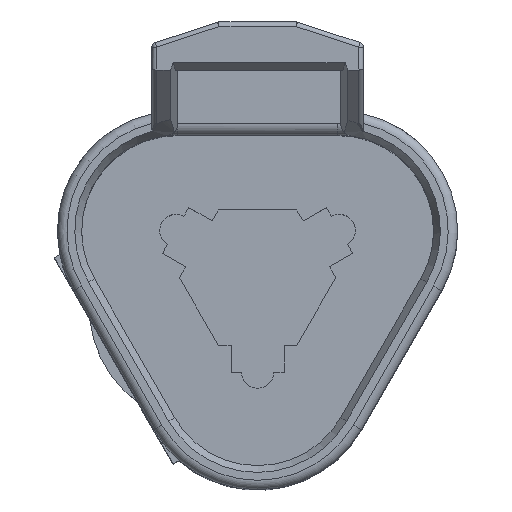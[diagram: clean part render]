
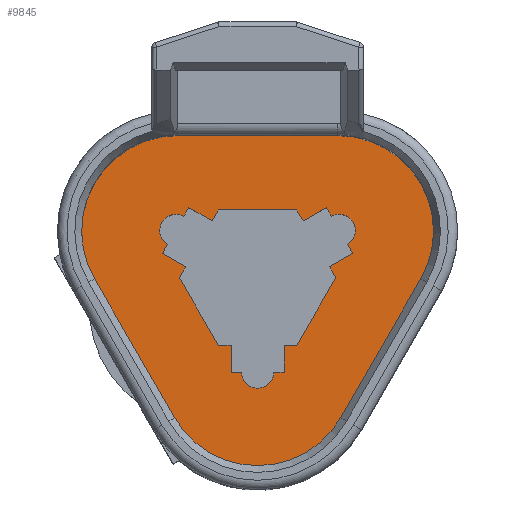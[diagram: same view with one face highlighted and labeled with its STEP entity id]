
A CAD part, top view. The second image highlights one B-rep face of the part: STEP entity #9845.
In plain terms, the highlighted planar face has unit normal (0, 0, 1).
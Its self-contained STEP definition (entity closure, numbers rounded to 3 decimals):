
#888=CARTESIAN_POINT('',(-4.234,3.669,-19.558));
#889=DIRECTION('',(0.,0.,1.));
#890=DIRECTION('',(0.,1.,0.));
#891=AXIS2_PLACEMENT_3D('',#888,#889,#890);
#896=DIRECTION('',(-1.,0.,0.));
#897=VECTOR('',#896,8.468);
#898=CARTESIAN_POINT('',(4.234,8.736,-19.558));
#899=LINE('',#898,#897);
#903=CARTESIAN_POINT('',(4.234,3.669,-19.558));
#904=DIRECTION('',(0.,0.,1.));
#905=DIRECTION('',(0.866,-0.5,0.));
#906=AXIS2_PLACEMENT_3D('',#903,#904,#905);
#911=DIRECTION('',(0.5,0.866,0.));
#912=VECTOR('',#911,8.474);
#913=CARTESIAN_POINT('',(4.389,-6.203,-19.558));
#914=LINE('',#913,#912);
#918=CARTESIAN_POINT('',(0.,-3.671,-19.558));
#919=DIRECTION('',(0.,0.,1.));
#920=DIRECTION('',(-0.866,-0.5,0.));
#921=AXIS2_PLACEMENT_3D('',#918,#919,#920);
#926=DIRECTION('',(0.5,-0.866,0.));
#927=VECTOR('',#926,8.474);
#928=CARTESIAN_POINT('',(-8.623,1.138,-19.558));
#929=LINE('',#928,#927);
#933=DIRECTION('',(-0.5,-0.866,0.));
#934=VECTOR('',#933,0.671);
#935=CARTESIAN_POINT('',(-2.068,4.805,-19.558));
#936=LINE('',#935,#934);
#940=DIRECTION('',(-0.866,0.5,0.));
#941=VECTOR('',#940,1.422);
#942=CARTESIAN_POINT('',(-2.403,4.224,-19.558));
#943=LINE('',#942,#941);
#947=DIRECTION('',(-0.5,-0.866,0.));
#948=VECTOR('',#947,0.533);
#949=CARTESIAN_POINT('',(-3.634,4.935,-19.558));
#950=LINE('',#949,#948);
#954=CARTESIAN_POINT('',(-4.308,3.711,-19.558));
#955=DIRECTION('',(0.,0.,1.));
#956=DIRECTION('',(0.471,0.882,0.));
#957=AXIS2_PLACEMENT_3D('',#954,#955,#956);
#962=DIRECTION('',(-0.5,-0.866,0.));
#963=VECTOR('',#962,0.533);
#964=CARTESIAN_POINT('',(-4.764,2.978,-19.558));
#965=LINE('',#964,#963);
#969=DIRECTION('',(0.866,-0.5,0.));
#970=VECTOR('',#969,1.422);
#971=CARTESIAN_POINT('',(-5.031,2.516,-19.558));
#972=LINE('',#971,#970);
#976=DIRECTION('',(-0.5,-0.866,0.));
#977=VECTOR('',#976,0.671);
#978=CARTESIAN_POINT('',(-3.8,1.805,-19.558));
#979=LINE('',#978,#977);
#983=DIRECTION('',(0.5,-0.866,0.));
#984=VECTOR('',#983,4.135);
#985=CARTESIAN_POINT('',(-4.135,1.224,-19.558));
#986=LINE('',#985,#984);
#990=DIRECTION('',(1.,0.,0.));
#991=VECTOR('',#990,0.671);
#992=CARTESIAN_POINT('',(-2.068,-2.357,-19.558));
#993=LINE('',#992,#991);
#997=DIRECTION('',(0.,-1.,0.));
#998=VECTOR('',#997,1.422);
#999=CARTESIAN_POINT('',(-1.397,-2.357,-19.558));
#1000=LINE('',#999,#998);
#1004=DIRECTION('',(1.,0.,0.));
#1005=VECTOR('',#1004,0.533);
#1006=CARTESIAN_POINT('',(-1.397,-3.779,-19.558));
#1007=LINE('',#1006,#1005);
#1011=CARTESIAN_POINT('',(0.,-3.75,-19.558));
#1012=DIRECTION('',(0.,0.,1.));
#1013=DIRECTION('',(-0.999,-0.034,0.));
#1014=AXIS2_PLACEMENT_3D('',#1011,#1012,#1013);
#1019=DIRECTION('',(1.,0.,0.));
#1020=VECTOR('',#1019,0.533);
#1021=CARTESIAN_POINT('',(0.864,-3.779,-19.558));
#1022=LINE('',#1021,#1020);
#1026=DIRECTION('',(0.,1.,0.));
#1027=VECTOR('',#1026,1.422);
#1028=CARTESIAN_POINT('',(1.397,-3.779,-19.558));
#1029=LINE('',#1028,#1027);
#1033=DIRECTION('',(1.,0.,0.));
#1034=VECTOR('',#1033,0.671);
#1035=CARTESIAN_POINT('',(1.397,-2.357,-19.558));
#1036=LINE('',#1035,#1034);
#1040=DIRECTION('',(0.5,0.866,0.));
#1041=VECTOR('',#1040,4.135);
#1042=CARTESIAN_POINT('',(2.068,-2.357,-19.558));
#1043=LINE('',#1042,#1041);
#1047=DIRECTION('',(-0.5,0.866,0.));
#1048=VECTOR('',#1047,0.671);
#1049=CARTESIAN_POINT('',(4.135,1.224,-19.558));
#1050=LINE('',#1049,#1048);
#1054=DIRECTION('',(0.866,0.5,0.));
#1055=VECTOR('',#1054,1.422);
#1056=CARTESIAN_POINT('',(3.8,1.805,-19.558));
#1057=LINE('',#1056,#1055);
#1061=DIRECTION('',(-0.5,0.866,0.));
#1062=VECTOR('',#1061,0.533);
#1063=CARTESIAN_POINT('',(5.031,2.516,-19.558));
#1064=LINE('',#1063,#1062);
#1068=CARTESIAN_POINT('',(4.308,3.711,-19.558));
#1069=DIRECTION('',(0.,0.,1.));
#1070=DIRECTION('',(0.529,-0.849,0.));
#1071=AXIS2_PLACEMENT_3D('',#1068,#1069,#1070);
#1076=DIRECTION('',(-0.5,0.866,0.));
#1077=VECTOR('',#1076,0.533);
#1078=CARTESIAN_POINT('',(3.901,4.473,-19.558));
#1079=LINE('',#1078,#1077);
#1083=DIRECTION('',(-0.866,-0.5,0.));
#1084=VECTOR('',#1083,1.422);
#1085=CARTESIAN_POINT('',(3.634,4.935,-19.558));
#1086=LINE('',#1085,#1084);
#1090=DIRECTION('',(-0.5,0.866,0.));
#1091=VECTOR('',#1090,0.671);
#1092=CARTESIAN_POINT('',(2.403,4.224,-19.558));
#1093=LINE('',#1092,#1091);
#1097=DIRECTION('',(-1.,0.,0.));
#1098=VECTOR('',#1097,4.135);
#1099=CARTESIAN_POINT('',(2.068,4.805,-19.558));
#1100=LINE('',#1099,#1098);
#8006=CARTESIAN_POINT('',(-4.234,8.736,-19.558));
#8007=CARTESIAN_POINT('',(-8.623,1.138,-19.558));
#8008=VERTEX_POINT('',#8006);
#8009=VERTEX_POINT('',#8007);
#8010=CARTESIAN_POINT('',(-4.389,-6.203,-19.558));
#8011=VERTEX_POINT('',#8010);
#8012=CARTESIAN_POINT('',(4.389,-6.203,-19.558));
#8013=VERTEX_POINT('',#8012);
#8014=CARTESIAN_POINT('',(8.623,1.138,-19.558));
#8015=VERTEX_POINT('',#8014);
#8016=CARTESIAN_POINT('',(4.234,8.736,-19.558));
#8017=VERTEX_POINT('',#8016);
#8066=CARTESIAN_POINT('',(-2.068,4.805,-19.558));
#8067=CARTESIAN_POINT('',(-2.403,4.224,-19.558));
#8068=VERTEX_POINT('',#8066);
#8069=VERTEX_POINT('',#8067);
#8070=CARTESIAN_POINT('',(-3.634,4.935,-19.558));
#8071=VERTEX_POINT('',#8070);
#8072=CARTESIAN_POINT('',(-3.901,4.473,-19.558));
#8073=VERTEX_POINT('',#8072);
#8074=CARTESIAN_POINT('',(-4.764,2.978,-19.558));
#8075=VERTEX_POINT('',#8074);
#8076=CARTESIAN_POINT('',(-5.031,2.516,-19.558));
#8077=VERTEX_POINT('',#8076);
#8078=CARTESIAN_POINT('',(-3.8,1.805,-19.558));
#8079=VERTEX_POINT('',#8078);
#8080=CARTESIAN_POINT('',(-4.135,1.224,-19.558));
#8081=VERTEX_POINT('',#8080);
#8082=CARTESIAN_POINT('',(-2.068,-2.357,-19.558));
#8083=VERTEX_POINT('',#8082);
#8084=CARTESIAN_POINT('',(-1.397,-2.357,-19.558));
#8085=VERTEX_POINT('',#8084);
#8086=CARTESIAN_POINT('',(-1.397,-3.779,-19.558));
#8087=VERTEX_POINT('',#8086);
#8088=CARTESIAN_POINT('',(-0.864,-3.779,-19.558));
#8089=VERTEX_POINT('',#8088);
#8090=CARTESIAN_POINT('',(0.864,-3.779,-19.558));
#8091=VERTEX_POINT('',#8090);
#8092=CARTESIAN_POINT('',(1.397,-3.779,-19.558));
#8093=VERTEX_POINT('',#8092);
#8094=CARTESIAN_POINT('',(1.397,-2.357,-19.558));
#8095=VERTEX_POINT('',#8094);
#8096=CARTESIAN_POINT('',(2.068,-2.357,-19.558));
#8097=VERTEX_POINT('',#8096);
#8098=CARTESIAN_POINT('',(4.135,1.224,-19.558));
#8099=VERTEX_POINT('',#8098);
#8100=CARTESIAN_POINT('',(3.8,1.805,-19.558));
#8101=VERTEX_POINT('',#8100);
#8102=CARTESIAN_POINT('',(5.031,2.516,-19.558));
#8103=VERTEX_POINT('',#8102);
#8104=CARTESIAN_POINT('',(4.764,2.978,-19.558));
#8105=VERTEX_POINT('',#8104);
#8106=CARTESIAN_POINT('',(3.901,4.473,-19.558));
#8107=VERTEX_POINT('',#8106);
#8108=CARTESIAN_POINT('',(3.634,4.935,-19.558));
#8109=VERTEX_POINT('',#8108);
#8110=CARTESIAN_POINT('',(2.403,4.224,-19.558));
#8111=VERTEX_POINT('',#8110);
#8112=CARTESIAN_POINT('',(2.068,4.805,-19.558));
#8113=VERTEX_POINT('',#8112);
#9778=CARTESIAN_POINT('',(-12.692,0.,-19.558));
#9779=DIRECTION('',(0.,0.,1.));
#9780=DIRECTION('',(1.,0.,0.));
#9781=AXIS2_PLACEMENT_3D('',#9778,#9779,#9780);
#9782=PLANE('',#9781);
#9783=ORIENTED_EDGE('',*,*,#9502,.F.);
#9785=ORIENTED_EDGE('',*,*,#9784,.F.);
#9787=ORIENTED_EDGE('',*,*,#9786,.F.);
#9789=ORIENTED_EDGE('',*,*,#9788,.F.);
#9791=ORIENTED_EDGE('',*,*,#9790,.F.);
#9792=ORIENTED_EDGE('',*,*,#9771,.F.);
#9793=EDGE_LOOP('',(#9783,#9785,#9787,#9789,#9791,#9792));
#9794=FACE_OUTER_BOUND('',#9793,.F.);
#9796=ORIENTED_EDGE('',*,*,#9795,.T.);
#9798=ORIENTED_EDGE('',*,*,#9797,.T.);
#9800=ORIENTED_EDGE('',*,*,#9799,.T.);
#9802=ORIENTED_EDGE('',*,*,#9801,.T.);
#9804=ORIENTED_EDGE('',*,*,#9803,.T.);
#9806=ORIENTED_EDGE('',*,*,#9805,.T.);
#9808=ORIENTED_EDGE('',*,*,#9807,.T.);
#9810=ORIENTED_EDGE('',*,*,#9809,.T.);
#9812=ORIENTED_EDGE('',*,*,#9811,.T.);
#9814=ORIENTED_EDGE('',*,*,#9813,.T.);
#9816=ORIENTED_EDGE('',*,*,#9815,.T.);
#9818=ORIENTED_EDGE('',*,*,#9817,.T.);
#9820=ORIENTED_EDGE('',*,*,#9819,.T.);
#9822=ORIENTED_EDGE('',*,*,#9821,.T.);
#9824=ORIENTED_EDGE('',*,*,#9823,.T.);
#9826=ORIENTED_EDGE('',*,*,#9825,.T.);
#9828=ORIENTED_EDGE('',*,*,#9827,.T.);
#9830=ORIENTED_EDGE('',*,*,#9829,.T.);
#9832=ORIENTED_EDGE('',*,*,#9831,.T.);
#9834=ORIENTED_EDGE('',*,*,#9833,.T.);
#9836=ORIENTED_EDGE('',*,*,#9835,.T.);
#9838=ORIENTED_EDGE('',*,*,#9837,.T.);
#9840=ORIENTED_EDGE('',*,*,#9839,.T.);
#9842=ORIENTED_EDGE('',*,*,#9841,.T.);
#9843=EDGE_LOOP('',(#9796,#9798,#9800,#9802,#9804,#9806,#9808,#9810,#9812,#9814,
#9816,#9818,#9820,#9822,#9824,#9826,#9828,#9830,#9832,#9834,#9836,#9838,#9840,
#9842));
#9844=FACE_BOUND('',#9843,.F.);
#9845=ADVANCED_FACE('',(#9794,#9844),#9782,.T.);
#892=CIRCLE('',#891,5.067);
#907=CIRCLE('',#906,5.067);
#922=CIRCLE('',#921,5.067);
#958=CIRCLE('',#957,0.864);
#1015=CIRCLE('',#1014,0.864);
#1072=CIRCLE('',#1071,0.864);
#9502=EDGE_CURVE('',#8008,#8009,#892,.T.);
#9771=EDGE_CURVE('',#8009,#8011,#929,.T.);
#9784=EDGE_CURVE('',#8017,#8008,#899,.T.);
#9786=EDGE_CURVE('',#8015,#8017,#907,.T.);
#9788=EDGE_CURVE('',#8013,#8015,#914,.T.);
#9790=EDGE_CURVE('',#8011,#8013,#922,.T.);
#9795=EDGE_CURVE('',#8068,#8069,#936,.T.);
#9797=EDGE_CURVE('',#8069,#8071,#943,.T.);
#9799=EDGE_CURVE('',#8071,#8073,#950,.T.);
#9801=EDGE_CURVE('',#8073,#8075,#958,.T.);
#9803=EDGE_CURVE('',#8075,#8077,#965,.T.);
#9805=EDGE_CURVE('',#8077,#8079,#972,.T.);
#9807=EDGE_CURVE('',#8079,#8081,#979,.T.);
#9809=EDGE_CURVE('',#8081,#8083,#986,.T.);
#9811=EDGE_CURVE('',#8083,#8085,#993,.T.);
#9813=EDGE_CURVE('',#8085,#8087,#1000,.T.);
#9815=EDGE_CURVE('',#8087,#8089,#1007,.T.);
#9817=EDGE_CURVE('',#8089,#8091,#1015,.T.);
#9819=EDGE_CURVE('',#8091,#8093,#1022,.T.);
#9821=EDGE_CURVE('',#8093,#8095,#1029,.T.);
#9823=EDGE_CURVE('',#8095,#8097,#1036,.T.);
#9825=EDGE_CURVE('',#8097,#8099,#1043,.T.);
#9827=EDGE_CURVE('',#8099,#8101,#1050,.T.);
#9829=EDGE_CURVE('',#8101,#8103,#1057,.T.);
#9831=EDGE_CURVE('',#8103,#8105,#1064,.T.);
#9833=EDGE_CURVE('',#8105,#8107,#1072,.T.);
#9835=EDGE_CURVE('',#8107,#8109,#1079,.T.);
#9837=EDGE_CURVE('',#8109,#8111,#1086,.T.);
#9839=EDGE_CURVE('',#8111,#8113,#1093,.T.);
#9841=EDGE_CURVE('',#8113,#8068,#1100,.T.);
